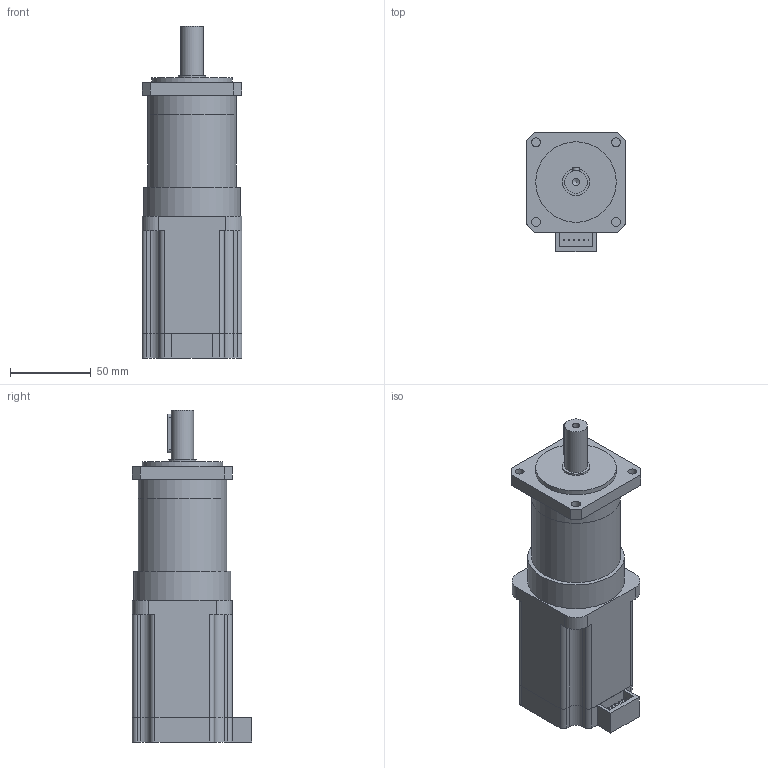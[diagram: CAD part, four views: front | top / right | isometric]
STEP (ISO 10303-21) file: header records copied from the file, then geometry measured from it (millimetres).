
FILE_DESCRIPTION(/* description */ (''),/* implementation_level */ '2;1');
FILE_NAME(/* name */ '62PG005-D45-0488.stp',/* time_stamp */ '2018-08-28T09:00:21+08:00',/* author */ (''),/* organization */ (''),/* preprocessor_version */ 'ST-DEVELOPER v11',/* originating_system */ 'SIEMENS UGS NX 6.0',/* authorisation */ '');
FILE_SCHEMA (('CONFIG_CONTROL_DESIGN'));
Length unit declared in the file: millimetre
Products named in the file (1): 62PG003-D45-0488
Bounding box: 62 x 74 x 206 mm (x, y, z)
Volume: 530453.7 mm3; surface area: 61016.9 mm2
Topology: 3 solids, 3 shells, 132 faces, 337 edges, 225 vertices
Faces by surface type: plane 90, cylinder 41, cone 1
Full cylindrical faces by diameter (mm): 4.5 x1, 5.5 x4, 14 x1, 17 x1, 50 x1, 55 x2, 60 x1
Entity records: 4060 total; most frequent: CARTESIAN_POINT 738, DIRECTION 666, ORIENTED_EDGE 644, EDGE_CURVE 322, LINE 240, VECTOR 240, VERTEX_POINT 223, AXIS2_PLACEMENT_3D 213
